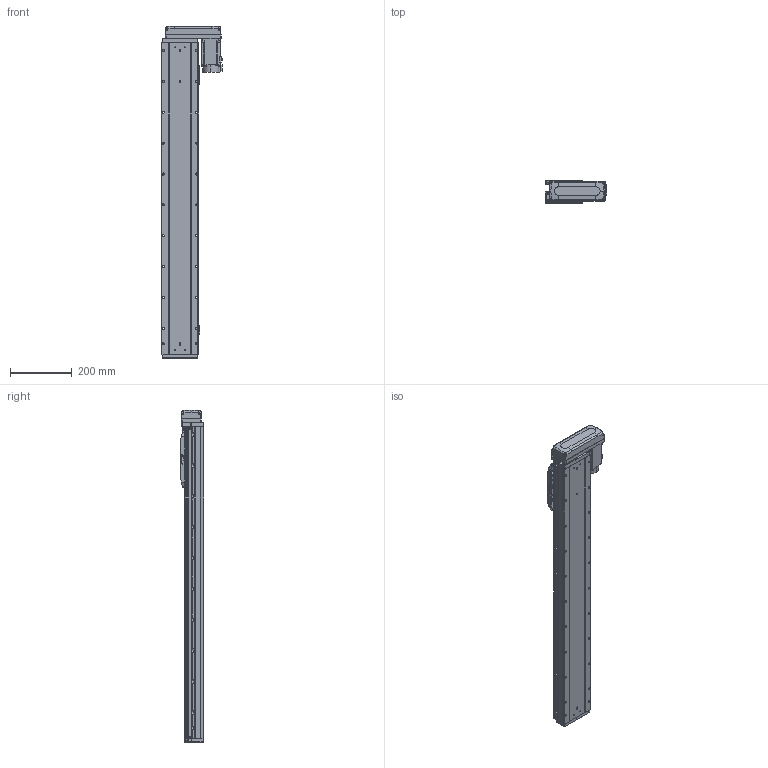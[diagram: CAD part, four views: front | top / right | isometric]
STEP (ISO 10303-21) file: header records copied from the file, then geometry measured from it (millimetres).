
FILE_DESCRIPTION (( 'STEP AP203' ), '1' );
FILE_NAME ('GTH12-800-BL-M40-C4.step', '2023-07-04T10:41:44', ( '微软用户' ), ( '微软中国' ), 'SwSTEP 2.0', 'SolidWorks 2020', '' );
FILE_SCHEMA (( 'CONFIG_CONTROL_DESIGN' ));
Length unit declared in the file: millimetre
Products named in the file (18): GBT 70.1-M5×16; GTH50-023; GTH12-800-BL-M40-C4; GTH120-001_800; GBT 70.3-M3℅8; GTH50-024; GTH120-003; GBT96.1-2002 3×0.8; GTH120-006; BTH-M3X5X6; GTH120-004; hg-kn43j_-s100_; GTH120-013; GTH80-022; CTHA86-033_M40B; GBT 70.1-M3℅6; GTH80-028; GTH120-027-1_GTH120-027-2
Assembly tree (59 placements, depth 2):
  GTH12-800-BL-M40-C4
    GTH120-001_800
    GTH120-003
    GTH120-006
    GTH120-004
    GTH120-013
    GBT 70.1-M3℅6  x14
    GBT 70.1-M5×16  x10
    GBT 70.3-M3℅8  x4
    GTH80-022
    GTH80-028  x2
    GTH50-023  x3
    GTH50-024  x3
    GBT96.1-2002 3×0.8  x6
    BTH-M3X5X6  x8
    hg-kn43j_-s100_
    CTHA86-033_M40B
    GTH120-027-1_GTH120-027-2
Bounding box: 199.8 x 76 x 1075.5 mm (x, y, z)
Volume: 7863366.3 mm3; surface area: 702107.6 mm2
Topology: 61 solids, 61 shells, 2497 faces, 5838 edges, 3583 vertices
Faces by surface type: plane 1278, cylinder 731, cone 300, torus 174, sphere 8, bspline 6
Entity records: 47248 total; most frequent: CARTESIAN_POINT 8004, DIRECTION 7842, ORIENTED_EDGE 7286, EDGE_CURVE 3643, AXIS2_PLACEMENT_3D 2742, LINE 2358, VECTOR 2358, VERTEX_POINT 2304
